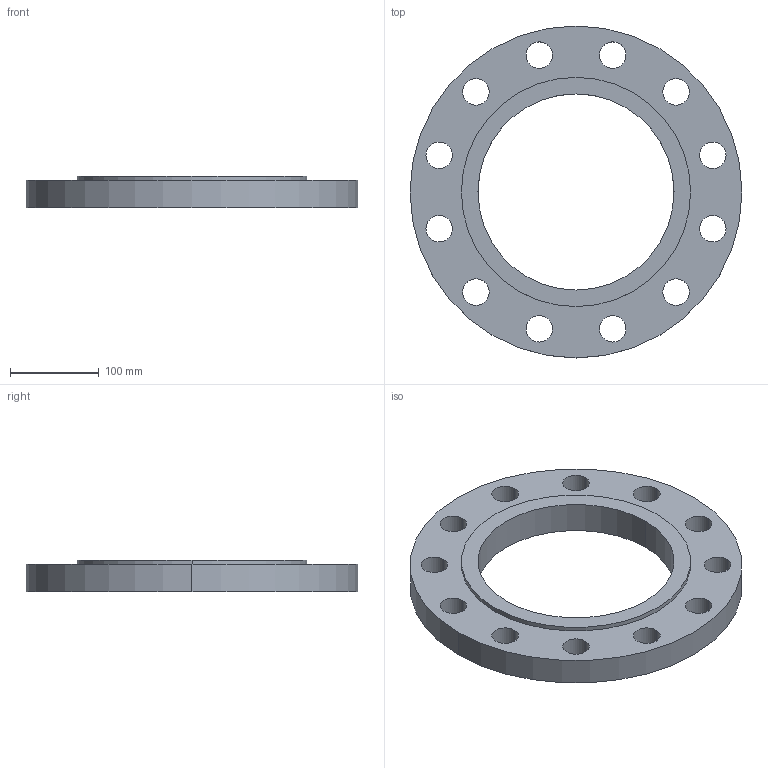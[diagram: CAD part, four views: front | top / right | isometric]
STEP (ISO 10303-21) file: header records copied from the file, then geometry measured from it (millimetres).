
FILE_DESCRIPTION (( 'STEP AP214' ), '1' );
FILE_NAME ('PN40 DN200 Type 01 - Type E Face.STEP', '2019-01-05T02:28:17', ( '' ), ( '' ), 'SwSTEP 2.0', 'SolidWorks 2019', '' );
FILE_SCHEMA (( 'AUTOMOTIVE_DESIGN' ));
Length unit declared in the file: millimetre
Products named in the file (1): PN40 DN200 Type 01 - Type E Face
Bounding box: 375 x 375 x 36 mm (x, y, z)
Volume: 2037117.8 mm3; surface area: 227562.4 mm2
Topology: 1 solids, 1 shells, 33 faces, 90 edges, 60 vertices
Faces by surface type: cylinder 30, plane 3
Entity records: 1170 total; most frequent: DIRECTION 218, CARTESIAN_POINT 184, ORIENTED_EDGE 180, AXIS2_PLACEMENT_3D 94, EDGE_CURVE 90, CIRCLE 60, EDGE_LOOP 60, VERTEX_POINT 60
